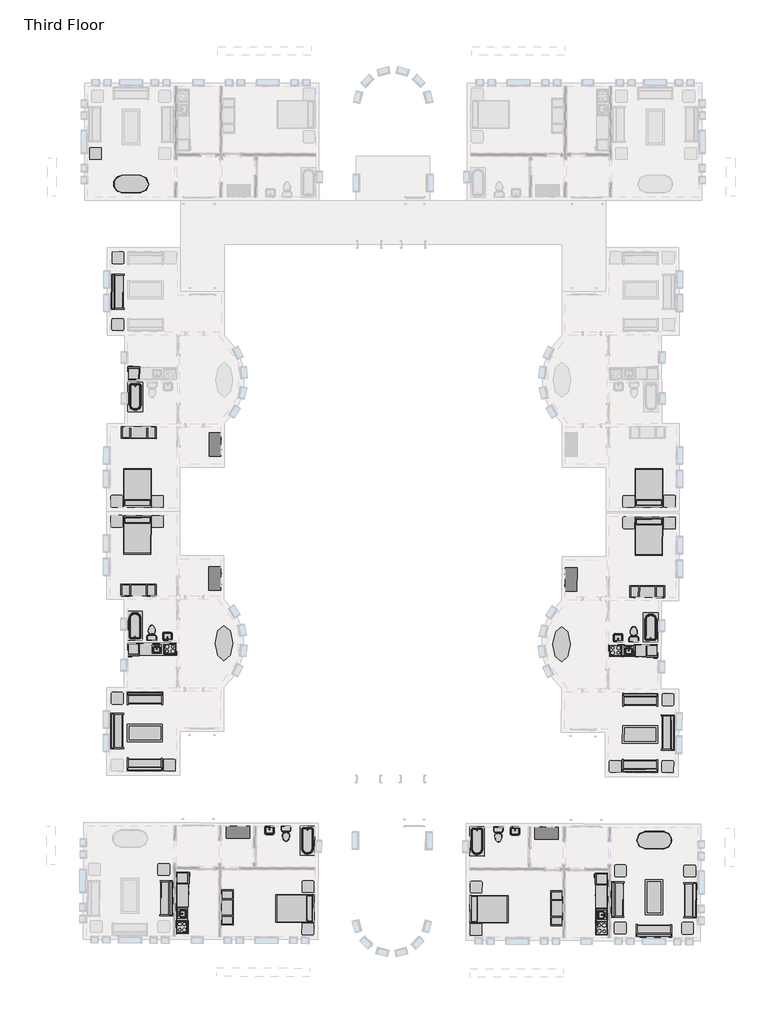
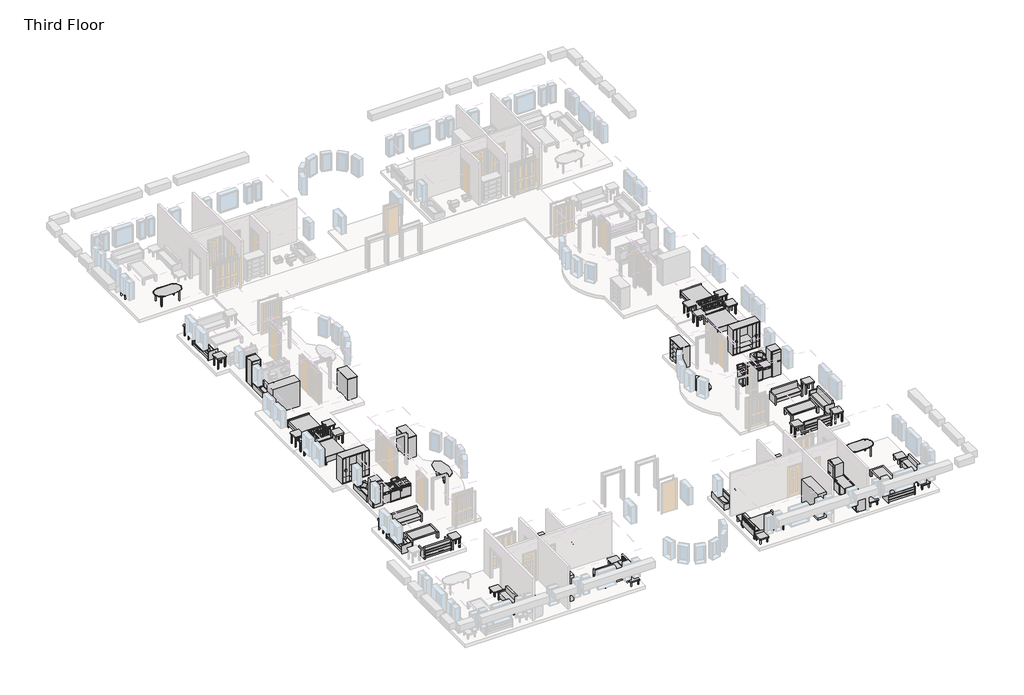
# One storey, part 4 of 5: 63 furniture elements, 17 flow terminals, 16 proxies.
"""IFC4 building model written with IfcOpenShell, lengths in millimetres."""

from ifc_helpers import new_model, si_unit, origin, place, context, project, spatial, transform, mapped, element, save
from components import m_cook_top_4_unit2_0615_x_500mm_249f3515, m_cook_top_4_unit2_0615_x_500mm_c91639ce, m_dishwasher_610_x_610_x_875mm_54ecfc4c, m_dishwasher_610_x_610_x_875mm_75336c20, m_kitchenette_medium_1372mm_39f1532f, m_kitchenette_medium_1372mm_e05c6bec, m_refrigerator_600_x_660mm_a466bf94, m_refrigerator_600_x_660mm_0a899b9c, m_sink_kitchen_island_450_x_450mm_f969cf2d, m_sink_kitchen_island_450_x_450mm_f6c2c534, m_sink_vanity_square_500_x_440mm_1e229b74, m_sink_vanity_square_500_x_440mm_f3cfe680, m_toilet_domestic_3d_m_toilet_domestic_3d_5cb52bd4, m_toilet_domestic_3d_m_toilet_domestic_3d_183bbd19, m_toilet_domestic_3d_m_toilet_domestic_3d_43425dfb, m_toilet_domestic_3d_m_toilet_domestic_3d_5530cc89, m_tub_rectangular_3d_m_tub_rectangular_3d_3a981ad5, m_tub_rectangular_3d_m_tub_rectangular_3d_c2020133, m_bed_shaker_1422_x_1981mm_double_096e7f55, m_bed_shaker_1422_x_1981mm_double_097b173b, m_counter_top_w_sink_hole_600mm_depth_1fb56bb9, m_counter_top_w_sink_hole_600mm_depth_08c4f679, m_counter_top_w_sink_hole_600mm_depth_60928b92, m_counter_top_w_sink_hole_600mm_depth_7e9aa94d, m_dresser_1220_x_1525_x_0610mm_18e1f140, m_dresser_1220_x_1525_x_0610mm_4e5de046, m_entertainment_center_1830_x_1830_x_0610mm_f77a9b93, m_entertainment_center_1830_x_1830_x_0610mm_4f6058a0, m_sofa_1830mm_58d08fc1, m_sofa_1830mm_3da2e71b, m_sofa1_1830mm_f9e8a66b, m_sofa1_1830mm_493d6964, m_table_coffee_0915_x_1830_x_0457mm_134cd960, m_table_coffee_0915_x_1830_x_0457mm_595c1ebd, m_table_dining_oval_0915_x_1830mm_ad8305c5, m_table_ellipse_1800_x_900mm_fd46d5a5, m_table_ellipse_1800_x_900mm_f7269293, m_table_end_cb6ea12e, m_table_end_aa2764bc, m_table_end_0610_x_0160mm_e0e5b28f, m_table_end_0610_x_0160mm_ccef8dc9

model = new_model("IFC4")

# Units and contexts
model_context = context("Model", 3, world=origin())
ifc_project = project(units=[si_unit("LENGTHUNIT", "METRE", prefix="MILLI")], contexts=[model_context])

# Site, building, storey
site = spatial("IfcSite", under=ifc_project)
building = spatial("IfcBuilding", under=site)
storey = spatial("IfcBuildingStorey", under=building, Name="Third Floor", Elevation=6096.0)

# Proxies
placement = place(None, origin())
m_cook_top_4_unit2_0615_x_500mm_shape = m_cook_top_4_unit2_0615_x_500mm_249f3515(model_context)
element("IfcBuildingElementProxy", 1, Name="M_Cook Top-4 Unit2 : 0615 x 500mm", ObjectType="M_Cook Top-4 Unit2 : 0615 x 500mm", at=placement, inside=storey, context=model_context, shape_type="MappedRepresentation", body=[
    mapped(m_cook_top_4_unit2_0615_x_500mm_shape, transform((-7404.4223325, -26881.3653639, 6096.0), x_axis=(0.9999905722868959, -0.004342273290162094, 0.0), y_axis=(0.004342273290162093, 0.9999905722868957, 0.0), z_axis=(0.0, 0.0, 0.9999999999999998))),
])
element("IfcBuildingElementProxy", 2, Name="M_Cook Top-4 Unit2 : 0615 x 500mm", ObjectType="M_Cook Top-4 Unit2 : 0615 x 500mm", at=placement, inside=storey, context=model_context, shape_type="MappedRepresentation", body=[
    mapped(m_cook_top_4_unit2_0615_x_500mm_shape, transform((-29921.672142, -41252.4695151, 6096.0), x_axis=(0.0028948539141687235, 0.9999958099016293, 0.0), y_axis=(-0.9999958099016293, 0.0028948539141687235, 0.0), z_axis=(0.0, 0.0, 1.0))),
])
m_cook_top_4_unit2_0615_x_500mm_2_shape = m_cook_top_4_unit2_0615_x_500mm_c91639ce(model_context)
element("IfcBuildingElementProxy", 3, Name="M_Cook Top-4 Unit2 : 0615 x 500mm", ObjectType="M_Cook Top-4 Unit2 : 0615 x 500mm", at=placement, inside=storey, context=model_context, shape_type="MappedRepresentation", body=[
    mapped(m_cook_top_4_unit2_0615_x_500mm_2_shape, transform((-8117.5635037, -41315.5894888, 6096.0), x_axis=(0.0028948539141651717, 0.9999958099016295, 0.0), y_axis=(-0.9999958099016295, 0.0028948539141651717, 0.0), z_axis=(0.0, 0.0, 1.0))),
])
element("IfcBuildingElementProxy", 4, Name="M_Cook Top-4 Unit2 : 0615 x 500mm", ObjectType="M_Cook Top-4 Unit2 : 0615 x 500mm", at=placement, inside=storey, context=model_context, shape_type="MappedRepresentation", body=[
    mapped(m_cook_top_4_unit2_0615_x_500mm_2_shape, transform((-30551.2317704, -26814.3584512, 6096.0), x_axis=(-0.9999989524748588, 0.0014474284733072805, 0.0), y_axis=(-0.0014474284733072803, -0.9999989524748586, 0.0), z_axis=(0.0, 0.0, 0.9999999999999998))),
])
m_dishwasher_610_x_610_x_875mm_shape = m_dishwasher_610_x_610_x_875mm_54ecfc4c(model_context)
element("IfcBuildingElementProxy", 5, Name="M_Dishwasher : 610 x 610 x 875mm", ObjectType="M_Dishwasher : 610 x 610 x 875mm", at=placement, inside=storey, context=model_context, shape_type="MappedRepresentation", body=[
    mapped(m_dishwasher_610_x_610_x_875mm_shape, transform((-6490.1062972, -27151.9876901, 6096.0), x_axis=(0.9999905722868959, -0.004342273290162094, 0.0), y_axis=(0.004342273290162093, 0.9999905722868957, 0.0), z_axis=(0.0, 0.0, 0.9999999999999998))),
])
element("IfcBuildingElementProxy", 6, Name="M_Dishwasher : 610 x 610 x 875mm", ObjectType="M_Dishwasher : 610 x 610 x 875mm", at=placement, inside=storey, context=model_context, shape_type="MappedRepresentation", body=[
    mapped(m_dishwasher_610_x_610_x_875mm_shape, transform((-29650.5063255, -39692.7654337, 6096.0), x_axis=(0.0028948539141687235, 0.9999958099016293, 0.0), y_axis=(-0.9999958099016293, 0.0028948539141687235, 0.0), z_axis=(0.0, 0.0, 1.0))),
])
m_dishwasher_610_x_610_x_875mm_2_shape = m_dishwasher_610_x_610_x_875mm_75336c20(model_context)
element("IfcBuildingElementProxy", 7, Name="M_Dishwasher : 610 x 610 x 875mm", ObjectType="M_Dishwasher : 610 x 610 x 875mm", at=placement, inside=storey, context=model_context, shape_type="MappedRepresentation", body=[
    mapped(m_dishwasher_610_x_610_x_875mm_2_shape, transform((-8379.6945822, -39754.3415843, 6096.0), x_axis=(0.0028948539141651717, 0.9999958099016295, 0.0), y_axis=(-0.9999958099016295, 0.0028948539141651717, 0.0), z_axis=(0.0, 0.0, 1.0))),
])
element("IfcBuildingElementProxy", 8, Name="M_Dishwasher : 610 x 610 x 875mm", ObjectType="M_Dishwasher : 610 x 610 x 875mm", at=placement, inside=storey, context=model_context, shape_type="MappedRepresentation", body=[
    mapped(m_dishwasher_610_x_610_x_875mm_2_shape, transform((-31467.0992991, -27079.6826412, 6096.0), x_axis=(-0.9999989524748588, 0.0014474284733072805, 0.0), y_axis=(-0.0014474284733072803, -0.9999989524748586, 0.0), z_axis=(0.0, 0.0, 0.9999999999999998))),
])
m_kitchenette_medium_1372mm_shape = m_kitchenette_medium_1372mm_39f1532f(model_context)
element("IfcBuildingElementProxy", 9, Name="M_Kitchenette - Medium : 1372mm", ObjectType="M_Kitchenette - Medium : 1372mm", at=placement, inside=storey, context=model_context, shape_type="MappedRepresentation", body=[
    mapped(m_kitchenette_medium_1372mm_shape, transform((-7811.6260897, -40992.2114828, 6096.0), x_axis=(0.0028948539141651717, 0.9999958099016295, 0.0), y_axis=(-0.9999958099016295, 0.0028948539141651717, 0.0), z_axis=(0.0, 0.0, 1.0))),
])
m_kitchenette_medium_1372mm_2_shape = m_kitchenette_medium_1372mm_e05c6bec(model_context)
element("IfcBuildingElementProxy", 10, Name="M_Kitchenette - Medium1 : 1372mm 2", ObjectType="M_Kitchenette - Medium1 : 1372mm 2", at=placement, inside=storey, context=model_context, shape_type="MappedRepresentation", body=[
    mapped(m_kitchenette_medium_1372mm_2_shape, transform((-7078.8387011, -26577.7762748, 6096.0), x_axis=(0.9999905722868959, -0.004342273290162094, 0.0), y_axis=(0.004342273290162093, 0.9999905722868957, 0.0), z_axis=(0.0, 0.0, 0.9999999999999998))),
])
element("IfcBuildingElementProxy", 11, Name="M_Kitchenette - Medium1 : 1372mm 2", ObjectType="M_Kitchenette - Medium1 : 1372mm 2", at=placement, inside=storey, context=model_context, shape_type="MappedRepresentation", body=[
    mapped(m_kitchenette_medium_1372mm_shape, transform((-30875.0522602, -26508.8894242, 6096.0), x_axis=(-0.9999989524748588, 0.0014474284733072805, 0.0), y_axis=(-0.0014474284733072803, -0.9999989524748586, 0.0), z_axis=(0.0, 0.0, 0.9999999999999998))),
])
m_refrigerator_600_x_660mm_shape = m_refrigerator_600_x_660mm_a466bf94(model_context)
element("IfcBuildingElementProxy", 12, Name="M_Refrigerator : 600 x 660mm", ObjectType="M_Refrigerator : 600 x 660mm", at=placement, inside=storey, context=model_context, shape_type="MappedRepresentation", body=[
    mapped(m_refrigerator_600_x_660mm_shape, transform((-32487.3566416, -12528.1259936, 6096.0), x_axis=(-0.9999989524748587, 0.0014474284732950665, 0.0), y_axis=(-0.0014474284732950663, -0.9999989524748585, 0.0), z_axis=(0.0, 0.0, 0.9999999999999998))),
])
element("IfcBuildingElementProxy", 13, Name="M_Refrigerator : 600 x 660mm", ObjectType="M_Refrigerator : 600 x 660mm", at=placement, inside=storey, context=model_context, shape_type="MappedRepresentation", body=[
    mapped(m_refrigerator_600_x_660mm_shape, transform((-5447.6014915, -26881.0775022, 6096.0), x_axis=(0.9999905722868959, -0.004342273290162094, 0.0), y_axis=(0.004342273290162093, 0.9999905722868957, 0.0), z_axis=(0.0, 0.0, 0.9999999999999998))),
])
element("IfcBuildingElementProxy", 14, Name="M_Refrigerator : 600 x 660mm", ObjectType="M_Refrigerator : 600 x 660mm", at=placement, inside=storey, context=model_context, shape_type="MappedRepresentation", body=[
    mapped(m_refrigerator_600_x_660mm_shape, transform((-29922.9251807, -38650.6538432, 6096.0), x_axis=(0.0028948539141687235, 0.9999958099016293, 0.0), y_axis=(-0.9999958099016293, 0.0028948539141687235, 0.0), z_axis=(0.0, 0.0, 1.0))),
])
m_refrigerator_600_x_660mm_2_shape = m_refrigerator_600_x_660mm_0a899b9c(model_context)
element("IfcBuildingElementProxy", 15, Name="M_Refrigerator : 600 x 660mm", ObjectType="M_Refrigerator : 600 x 660mm", at=placement, inside=storey, context=model_context, shape_type="MappedRepresentation", body=[
    mapped(m_refrigerator_600_x_660mm_2_shape, transform((-8101.2467965, -38713.824679, 6096.0), x_axis=(0.0028948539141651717, 0.9999958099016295, 0.0), y_axis=(-0.9999958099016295, 0.0028948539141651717, 0.0), z_axis=(0.0, 0.0, 1.0))),
])
element("IfcBuildingElementProxy", 16, Name="M_Refrigerator : 600 x 660mm", ObjectType="M_Refrigerator : 600 x 660mm", at=placement, inside=storey, context=model_context, shape_type="MappedRepresentation", body=[
    mapped(m_refrigerator_600_x_660mm_2_shape, transform((-32508.0181478, -26802.7412209, 6096.0), x_axis=(-0.9999989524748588, 0.0014474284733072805, 0.0), y_axis=(-0.0014474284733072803, -0.9999989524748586, 0.0), z_axis=(0.0, 0.0, 0.9999999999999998))),
])

# Flow terminals
m_sink_kitchen_island_450_x_450mm_shape = m_sink_kitchen_island_450_x_450mm_f969cf2d(model_context)
element("IfcFlowTerminal", 17, ObjectType="M_Sink Kitchen-Island : 450 x 450mm", at=placement, inside=storey, context=model_context, shape_type="MappedRepresentation", body=[
    mapped(m_sink_kitchen_island_450_x_450mm_shape, transform((-6734.1280769, -26886.6214154, 6096.0), x_axis=(0.9999905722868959, -0.004342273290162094, 0.0), y_axis=(0.004342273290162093, 0.9999905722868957, 0.0), z_axis=(0.0, 0.0, 0.9999999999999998))),
])
element("IfcFlowTerminal", 18, ObjectType="M_Sink Kitchen-Island : 450 x 450mm", at=placement, inside=storey, context=model_context, shape_type="MappedRepresentation", body=[
    mapped(m_sink_kitchen_island_450_x_450mm_shape, transform((-29917.3862989, -40582.1683539, 6096.0), x_axis=(0.0028948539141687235, 0.9999958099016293, 0.0), y_axis=(-0.9999958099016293, 0.0028948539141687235, 0.0), z_axis=(0.0, 0.0, 1.0))),
])
m_sink_kitchen_island_450_x_450mm_2_shape = m_sink_kitchen_island_450_x_450mm_f6c2c534(model_context)
element("IfcFlowTerminal", 19, ObjectType="M_Sink Kitchen-Island : 450 x 450mm", at=placement, inside=storey, context=model_context, shape_type="MappedRepresentation", body=[
    mapped(m_sink_kitchen_island_450_x_450mm_2_shape, transform((-8117.9684433, -40645.2747484, 6096.0), x_axis=(0.0028948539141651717, 0.9999958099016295, 0.0), y_axis=(-0.9999958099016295, 0.0028948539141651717, 0.0), z_axis=(0.0, 0.0, 1.0))),
])
element("IfcFlowTerminal", 20, ObjectType="M_Sink Kitchen-Island : 450 x 450mm", at=placement, inside=storey, context=model_context, shape_type="MappedRepresentation", body=[
    mapped(m_sink_kitchen_island_450_x_450mm_2_shape, transform((-31221.5452225, -26815.733623, 6096.0), x_axis=(-0.9999989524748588, 0.0014474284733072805, 0.0), y_axis=(-0.0014474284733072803, -0.9999989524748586, 0.0), z_axis=(0.0, 0.0, 0.9999999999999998))),
])
m_sink_vanity_square_500_x_440mm_shape = m_sink_vanity_square_500_x_440mm_1e229b74(model_context)
element("IfcFlowTerminal", 21, ObjectType="M_Sink Vanity-Square : 500 x 440mm", at=placement, inside=storey, context=model_context, shape_type="MappedRepresentation", body=[
    mapped(m_sink_vanity_square_500_x_440mm_shape, transform((-7255.849628, -26269.4593372, 6096.0), x_axis=(-0.9999905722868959, 0.00434227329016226, 0.0), y_axis=(-0.0043422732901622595, -0.9999905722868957, 0.0), z_axis=(0.0, 0.0, 0.9999999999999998))),
])
element("IfcFlowTerminal", 22, ObjectType="M_Sink Vanity-Square : 500 x 440mm", at=placement, inside=storey, context=model_context, shape_type="MappedRepresentation", body=[
    mapped(m_sink_vanity_square_500_x_440mm_shape, transform((-25398.4470959, -36193.3769715, 6096.0), x_axis=(0.9999958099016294, -0.0028948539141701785, 0.0), y_axis=(0.0028948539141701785, 0.9999958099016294, 0.0), z_axis=(0.0, 0.0, 1.0))),
])
m_sink_vanity_square_500_x_440mm_2_shape = m_sink_vanity_square_500_x_440mm_f3cfe680(model_context)
element("IfcFlowTerminal", 23, ObjectType="M_Sink Vanity-Square : 500 x 440mm", at=placement, inside=storey, context=model_context, shape_type="MappedRepresentation", body=[
    mapped(m_sink_vanity_square_500_x_440mm_2_shape, transform((-12611.4221939, -36230.3936957, 6096.0), x_axis=(-0.9999958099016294, 0.002894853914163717, 0.0), y_axis=(-0.002894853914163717, -0.9999958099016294, 0.0), z_axis=(0.0, 0.0, 1.0))),
])
element("IfcFlowTerminal", 24, ObjectType="M_Sink Vanity-Square : 500 x 440mm", at=placement, inside=storey, context=model_context, shape_type="MappedRepresentation", body=[
    mapped(m_sink_vanity_square_500_x_440mm_2_shape, transform((-30696.2592425, -26201.6024913, 6096.0), x_axis=(0.9999989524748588, -0.001447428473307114, 0.0), y_axis=(0.0014474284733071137, 0.9999989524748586, 0.0), z_axis=(0.0, 0.0, 0.9999999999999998))),
])
m_toilet_domestic_3d_m_toilet_domestic_3d_shape = m_toilet_domestic_3d_m_toilet_domestic_3d_5cb52bd4(model_context)
m_toilet_domestic_3d_m_toilet_domestic_3d_2_shape = m_toilet_domestic_3d_m_toilet_domestic_3d_183bbd19(model_context)
element("IfcFlowTerminal", 25, ObjectType="M_Toilet-Domestic-3D : M_Toilet-Domestic-3D", at=placement, inside=storey, context=model_context, shape_type="MappedRepresentation", body=[
    mapped(m_toilet_domestic_3d_m_toilet_domestic_3d_shape, transform((-24522.1713775, -36508.8406097, 6096.0), x_axis=(0.9999958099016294, -0.00289485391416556, 0.0), y_axis=(0.00289485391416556, 0.9999958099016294, 0.0), z_axis=(0.0, 0.0, 1.0))),
    mapped(m_toilet_domestic_3d_m_toilet_domestic_3d_2_shape, transform((-24522.1713775, -36508.8406097, 6096.0), x_axis=(0.9999958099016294, -0.00289485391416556, 0.0), y_axis=(0.00289485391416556, 0.9999958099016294, 0.0), z_axis=(0.0, 0.0, 1.0))),
])
m_toilet_domestic_3d_m_toilet_domestic_3d_3_shape = m_toilet_domestic_3d_m_toilet_domestic_3d_43425dfb(model_context)
m_toilet_domestic_3d_m_toilet_domestic_3d_4_shape = m_toilet_domestic_3d_m_toilet_domestic_3d_5530cc89(model_context)
element("IfcFlowTerminal", 26, ObjectType="M_Toilet-Domestic-3D : M_Toilet-Domestic-3D", at=placement, inside=storey, context=model_context, shape_type="MappedRepresentation", body=[
    mapped(m_toilet_domestic_3d_m_toilet_domestic_3d_3_shape, transform((-13489.5096603, -36540.7786875, 6096.0), x_axis=(-0.9999958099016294, 0.002894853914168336, 0.0), y_axis=(-0.002894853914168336, -0.9999958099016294, 0.0), z_axis=(0.0, 0.0, 1.0))),
    mapped(m_toilet_domestic_3d_m_toilet_domestic_3d_4_shape, transform((-13489.5096603, -36540.7786875, 6096.0), x_axis=(-0.9999958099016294, 0.002894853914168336, 0.0), y_axis=(-0.002894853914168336, -0.9999958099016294, 0.0), z_axis=(0.0, 0.0, 1.0))),
])
element("IfcFlowTerminal", 27, ObjectType="M_Toilet-Domestic-3D1 : M_Toilet-Domestic-3D", at=placement, inside=storey, context=model_context, shape_type="MappedRepresentation", body=[
    mapped(m_toilet_domestic_3d_m_toilet_domestic_3d_shape, transform((-6457.2243201, -25950.2735511, 6096.0), x_axis=(-0.9999905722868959, 0.00434227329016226, 0.0), y_axis=(-0.0043422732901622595, -0.9999905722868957, 0.0), z_axis=(0.0, 0.0, 0.9999999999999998))),
    mapped(m_toilet_domestic_3d_m_toilet_domestic_3d_2_shape, transform((-6457.2243201, -25950.2735511, 6096.0), x_axis=(-0.9999905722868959, 0.00434227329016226, 0.0), y_axis=(-0.0043422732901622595, -0.9999905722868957, 0.0), z_axis=(0.0, 0.0, 0.9999999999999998))),
])
element("IfcFlowTerminal", 28, ObjectType="M_Toilet-Domestic-3D1 : M_Toilet-Domestic-3D", at=placement, inside=storey, context=model_context, shape_type="MappedRepresentation", body=[
    mapped(m_toilet_domestic_3d_m_toilet_domestic_3d_3_shape, transform((-31493.0231805, -25877.7982671, 6096.0), x_axis=(0.9999989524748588, -0.001447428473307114, 0.0), y_axis=(0.0014474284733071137, 0.9999989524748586, 0.0), z_axis=(0.0, 0.0, 0.9999999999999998))),
    mapped(m_toilet_domestic_3d_m_toilet_domestic_3d_4_shape, transform((-31493.0231805, -25877.7982671, 6096.0), x_axis=(0.9999989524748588, -0.001447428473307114, 0.0), y_axis=(0.0014474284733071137, 0.9999989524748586, 0.0), z_axis=(0.0, 0.0, 0.9999999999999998))),
])
m_tub_rectangular_3d_m_tub_rectangular_3d_shape = m_tub_rectangular_3d_m_tub_rectangular_3d_3a981ad5(model_context)
element("IfcFlowTerminal", 29, ObjectType="M_Tub-Rectangular-3D : M_Tub-Rectangular-3D", at=placement, inside=storey, context=model_context, shape_type="MappedRepresentation", body=[
    mapped(m_tub_rectangular_3d_m_tub_rectangular_3d_shape, transform((-22854.3573612, -37129.57823, 6096.0), x_axis=(-0.0028948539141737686, -0.9999958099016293, 0.0), y_axis=(0.9999958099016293, -0.0028948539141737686, 0.0), z_axis=(0.0, 0.0, 1.0))),
])
element("IfcFlowTerminal", 30, ObjectType="M_Tub-Rectangular-3D : M_Tub-Rectangular-3D", at=placement, inside=storey, context=model_context, shape_type="MappedRepresentation", body=[
    mapped(m_tub_rectangular_3d_m_tub_rectangular_3d_shape, transform((-32926.5841692, -25259.8157014, 6096.0), x_axis=(0.0014474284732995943, 0.9999989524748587, 0.0), y_axis=(-0.9999989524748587, 0.0014474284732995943, 0.0), z_axis=(0.0, 0.0, 1.0))),
])
m_tub_rectangular_3d_m_tub_rectangular_3d_2_shape = m_tub_rectangular_3d_m_tub_rectangular_3d_c2020133(model_context)
element("IfcFlowTerminal", 31, ObjectType="M_Tub-Rectangular-3D : M_Tub-Rectangular-3D", at=placement, inside=storey, context=model_context, shape_type="MappedRepresentation", body=[
    mapped(m_tub_rectangular_3d_m_tub_rectangular_3d_2_shape, transform((-32910.3874532, -14069.8333606, 6096.0), x_axis=(-0.0014474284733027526, -0.9999989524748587, 0.0), y_axis=(0.9999989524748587, -0.0014474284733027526, 0.0), z_axis=(0.0, 0.0, 1.0))),
])
element("IfcFlowTerminal", 32, ObjectType="M_Tub-Rectangular-3D : M_Tub-Rectangular-3D", at=placement, inside=storey, context=model_context, shape_type="MappedRepresentation", body=[
    mapped(m_tub_rectangular_3d_m_tub_rectangular_3d_2_shape, transform((-15160.8895978, -37151.8497886, 6096.0), x_axis=(-0.0028948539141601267, -0.9999958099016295, 0.0), y_axis=(0.9999958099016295, -0.0028948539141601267, 0.0), z_axis=(0.0, 0.0, 1.0))),
])
element("IfcFlowTerminal", 33, ObjectType="M_Tub-Rectangular-3D : M_Tub-Rectangular-3D", at=placement, inside=storey, context=model_context, shape_type="MappedRepresentation", body=[
    mapped(m_tub_rectangular_3d_m_tub_rectangular_3d_2_shape, transform((-5020.1094348, -25340.6012075, 6096.0), x_axis=(0.004342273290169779, 0.9999905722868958, 0.0), y_axis=(-0.9999905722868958, 0.004342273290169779, 0.0), z_axis=(0.0, 0.0, 1.0))),
])

# Furniture
m_bed_shaker_1422_x_1981mm_double_shape = m_bed_shaker_1422_x_1981mm_double_096e7f55(model_context)
element("IfcFurniture", 34, ObjectType="M_Bed-Shaker : 1422 x 1981mm - Double", at=placement, inside=storey, context=model_context, shape_type="MappedRepresentation", body=[
    mapped(m_bed_shaker_1422_x_1981mm_double_shape, transform((-32265.3963493, -19430.7695861, 6096.0), x_axis=(-0.9999989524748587, 0.0014474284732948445, 0.0), y_axis=(-0.0014474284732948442, -0.9999989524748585, 0.0), z_axis=(0.0, 0.0, 0.9999999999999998))),
])
element("IfcFurniture", 35, ObjectType="M_Bed-Shaker : 1422 x 1981mm - Double", at=placement, inside=storey, context=model_context, shape_type="MappedRepresentation", body=[
    mapped(m_bed_shaker_1422_x_1981mm_double_shape, transform((-5649.5787089, -19977.8202898, 6096.0), x_axis=(0.9999905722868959, -0.004342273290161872, 0.0), y_axis=(0.004342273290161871, 0.9999905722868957, 0.0), z_axis=(0.0, 0.0, 0.9999999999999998))),
])
element("IfcFurniture", 36, ObjectType="M_Bed-Shaker : 1422 x 1981mm - Double", at=placement, inside=storey, context=model_context, shape_type="MappedRepresentation", body=[
    mapped(m_bed_shaker_1422_x_1981mm_double_shape, transform((-23068.6004859, -40322.2184362, 6096.0), x_axis=(-0.002894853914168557, -0.9999958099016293, 0.0), y_axis=(0.9999958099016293, -0.002894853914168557, 0.0), z_axis=(0.0, 0.0, 1.0))),
])
m_bed_shaker_1422_x_1981mm_double_2_shape = m_bed_shaker_1422_x_1981mm_double_097b173b(model_context)
element("IfcFurniture", 37, ObjectType="M_Bed-Shaker : 1422 x 1981mm - Double", at=placement, inside=storey, context=model_context, shape_type="MappedRepresentation", body=[
    mapped(m_bed_shaker_1422_x_1981mm_double_2_shape, transform((-5648.7868913, -19430.7695861, 6096.0), x_axis=(0.9999989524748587, 0.0014474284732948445, 0.0), y_axis=(-0.0014474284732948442, 0.9999989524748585, 0.0), z_axis=(0.0, 0.0, 0.9999999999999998))),
])
element("IfcFurniture", 38, ObjectType="M_Bed-Shaker : 1422 x 1981mm - Double", at=placement, inside=storey, context=model_context, shape_type="MappedRepresentation", body=[
    mapped(m_bed_shaker_1422_x_1981mm_double_2_shape, transform((-14965.1344404, -40345.6768849, 6096.0), x_axis=(-0.0028948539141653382, -0.9999958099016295, 0.0), y_axis=(0.9999958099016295, -0.0028948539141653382, 0.0), z_axis=(0.0, 0.0, 1.0))),
])
element("IfcFurniture", 39, ObjectType="M_Bed-Shaker : 1422 x 1981mm - Double", at=placement, inside=storey, context=model_context, shape_type="MappedRepresentation", body=[
    mapped(m_bed_shaker_1422_x_1981mm_double_2_shape, transform((-32266.0766407, -19900.7690938, 6096.0), x_axis=(-0.9999989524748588, 0.0014474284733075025, 0.0), y_axis=(-0.0014474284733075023, -0.9999989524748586, 0.0), z_axis=(0.0, 0.0, 0.9999999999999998))),
])
m_counter_top_w_sink_hole_600mm_depth_shape = m_counter_top_w_sink_hole_600mm_depth_1fb56bb9(model_context)
element("IfcFurniture", 40, ObjectType="M_Counter Top w Sink Hole : 600mm Depth", at=placement, inside=storey, context=model_context, shape_type="MappedRepresentation", body=[
    mapped(m_counter_top_w_sink_hole_600mm_depth_shape, transform((-30224.1886359, -40394.1278824, 6096.0), x_axis=(0.0028948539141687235, 0.9999958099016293, 0.0), y_axis=(-0.9999958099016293, 0.0028948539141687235, 0.0), z_axis=(0.0, 0.0, 1.0))),
])
m_counter_top_w_sink_hole_600mm_depth_2_shape = m_counter_top_w_sink_hole_600mm_depth_08c4f679(model_context)
element("IfcFurniture", 41, ObjectType="M_Counter Top w Sink Hole : 600mm Depth", at=placement, inside=storey, context=model_context, shape_type="MappedRepresentation", body=[
    mapped(m_counter_top_w_sink_hole_600mm_depth_2_shape, transform((-6545.643728, -26580.0915749, 6096.0), x_axis=(0.9999905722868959, -0.004342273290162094, 0.0), y_axis=(0.004342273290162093, 0.9999905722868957, 0.0), z_axis=(0.0, 0.0, 0.9999999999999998))),
])
m_counter_top_w_sink_hole_600mm_depth_3_shape = m_counter_top_w_sink_hole_600mm_depth_60928b92(model_context)
element("IfcFurniture", 42, ObjectType="M_Counter Top w Sink Hole : 600mm Depth", at=placement, inside=storey, context=model_context, shape_type="MappedRepresentation", body=[
    mapped(m_counter_top_w_sink_hole_600mm_depth_3_shape, transform((-31408.2517016, -26508.1176554, 6096.0), x_axis=(-0.9999989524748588, 0.0014474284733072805, 0.0), y_axis=(-0.0014474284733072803, -0.9999989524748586, 0.0), z_axis=(0.0, 0.0, 0.9999999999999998))),
])
m_counter_top_w_sink_hole_600mm_depth_4_shape = m_counter_top_w_sink_hole_600mm_depth_7e9aa94d(model_context)
element("IfcFurniture", 43, ObjectType="M_Counter Top w Sink Hole : 600mm Depth", at=placement, inside=storey, context=model_context, shape_type="MappedRepresentation", body=[
    mapped(m_counter_top_w_sink_hole_600mm_depth_4_shape, transform((-7810.0825536, -40459.013717, 6096.0), x_axis=(0.0028948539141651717, 0.9999958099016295, 0.0), y_axis=(-0.9999958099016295, 0.0028948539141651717, 0.0), z_axis=(0.0, 0.0, 1.0))),
])
m_dresser_1220_x_1525_x_0610mm_shape = m_dresser_1220_x_1525_x_0610mm_18e1f140(model_context)
element("IfcFurniture", 44, ObjectType="M_Dresser : 1220 x 1525 x 0610mm", at=placement, inside=storey, context=model_context, shape_type="MappedRepresentation", body=[
    mapped(m_dresser_1220_x_1525_x_0610mm_shape, transform((-28574.6164889, -15914.9147832, 6096.0), x_axis=(0.0014474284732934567, 0.9999989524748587, 0.0), y_axis=(-0.9999989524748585, 0.0014474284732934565, 0.0), z_axis=(0.0, 0.0, 0.9999999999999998))),
])
element("IfcFurniture", 45, ObjectType="M_Dresser : 1220 x 1525 x 0610mm", at=placement, inside=storey, context=model_context, shape_type="MappedRepresentation", body=[
    mapped(m_dresser_1220_x_1525_x_0610mm_shape, transform((-9350.5209907, -23482.9760924, 6096.0), x_axis=(-0.004342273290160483, -0.9999905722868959, 0.0), y_axis=(0.9999905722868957, -0.004342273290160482, 0.0), z_axis=(0.0, 0.0, 0.9999999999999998))),
])
element("IfcFurniture", 46, ObjectType="M_Dresser : 1220 x 1525 x 0610mm", at=placement, inside=storey, context=model_context, shape_type="MappedRepresentation", body=[
    mapped(m_dresser_1220_x_1525_x_0610mm_shape, transform((-27295.820683, -36698.2790207, 6096.0), x_axis=(-0.9999958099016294, 0.0028948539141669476, 0.0), y_axis=(-0.0028948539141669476, -0.9999958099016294, 0.0), z_axis=(0.0, 0.0, 1.0))),
])
m_dresser_1220_x_1525_x_0610mm_2_shape = m_dresser_1220_x_1525_x_0610mm_4e5de046(model_context)
element("IfcFurniture", 47, ObjectType="M_Dresser : 1220 x 1525 x 0610mm", at=placement, inside=storey, context=model_context, shape_type="MappedRepresentation", body=[
    mapped(m_dresser_1220_x_1525_x_0610mm_2_shape, transform((-10717.0036305, -36746.2724752, 6096.0), x_axis=(0.9999958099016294, -0.002894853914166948, 0.0), y_axis=(0.002894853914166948, 0.9999958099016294, 0.0), z_axis=(0.0, 0.0, 1.0))),
])
element("IfcFurniture", 48, ObjectType="M_Dresser : 1220 x 1525 x 0610mm", at=placement, inside=storey, context=model_context, shape_type="MappedRepresentation", body=[
    mapped(m_dresser_1220_x_1525_x_0610mm_2_shape, transform((-28585.490131, -23427.2934334, 6096.0), x_axis=(-0.0014474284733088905, -0.9999989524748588, 0.0), y_axis=(0.9999989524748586, -0.0014474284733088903, 0.0), z_axis=(0.0, 0.0, 0.9999999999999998))),
])
m_entertainment_center_1830_x_1830_x_0610mm_shape = m_entertainment_center_1830_x_1830_x_0610mm_f77a9b93(model_context)
element("IfcFurniture", 49, ObjectType="M_Entertainment center : 1830 x 1830 x 0610mm", at=placement, inside=storey, context=model_context, shape_type="MappedRepresentation", body=[
    mapped(m_entertainment_center_1830_x_1830_x_0610mm_shape, transform((-32173.151944, -15980.2994888, 6096.0), x_axis=(-0.9999989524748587, 0.0014474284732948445, 0.0), y_axis=(-0.0014474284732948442, -0.9999989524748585, 0.0), z_axis=(0.0, 0.0, 0.9999999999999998))),
])
element("IfcFurniture", 50, ObjectType="M_Entertainment center : 1830 x 1830 x 0610mm", at=placement, inside=storey, context=model_context, shape_type="MappedRepresentation", body=[
    mapped(m_entertainment_center_1830_x_1830_x_0610mm_shape, transform((-5751.8113346, -23428.0088952, 6096.0), x_axis=(0.9999905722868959, -0.004342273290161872, 0.0), y_axis=(0.004342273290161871, 0.9999905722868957, 0.0), z_axis=(0.0, 0.0, 0.9999999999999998))),
])
element("IfcFurniture", 51, ObjectType="M_Entertainment center : 1830 x 1830 x 0610mm", at=placement, inside=storey, context=model_context, shape_type="MappedRepresentation", body=[
    mapped(m_entertainment_center_1830_x_1830_x_0610mm_shape, transform((-27155.4724705, -40237.537184, 6096.0), x_axis=(-0.0028948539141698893, -0.9999958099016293, 0.0), y_axis=(0.9999958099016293, -0.0028948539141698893, 0.0), z_axis=(0.0, 0.0, 1.0))),
])
m_entertainment_center_1830_x_1830_x_0610mm_2_shape = m_entertainment_center_1830_x_1830_x_0610mm_4f6058a0(model_context)
element("IfcFurniture", 52, ObjectType="M_Entertainment center : 1830 x 1830 x 0610mm", at=placement, inside=storey, context=model_context, shape_type="MappedRepresentation", body=[
    mapped(m_entertainment_center_1830_x_1830_x_0610mm_2_shape, transform((-10877.8406756, -40284.6587476, 6096.0), x_axis=(-0.002894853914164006, -0.9999958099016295, 0.0), y_axis=(0.9999958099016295, -0.002894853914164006, 0.0), z_axis=(0.0, 0.0, 1.0))),
])
element("IfcFurniture", 53, ObjectType="M_Entertainment center : 1830 x 1830 x 0610mm", at=placement, inside=storey, context=model_context, shape_type="MappedRepresentation", body=[
    mapped(m_entertainment_center_1830_x_1830_x_0610mm_2_shape, transform((-32183.8212288, -23351.4917673, 6096.0), x_axis=(-0.9999989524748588, 0.0014474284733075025, 0.0), y_axis=(-0.0014474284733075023, -0.9999989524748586, 0.0), z_axis=(0.0, 0.0, 0.9999999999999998))),
])
m_sofa_1830mm_shape = m_sofa_1830mm_58d08fc1(model_context)
element("IfcFurniture", 54, ObjectType="M_Sofa : 1830mm", at=placement, inside=storey, context=model_context, shape_type="MappedRepresentation", body=[
    mapped(m_sofa_1830mm_shape, transform((-30883.7111212, -39691.3716975, 6096.0), x_axis=(-0.002894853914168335, -0.9999958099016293, 0.0), y_axis=(0.9999958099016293, -0.002894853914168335, 0.0), z_axis=(0.0, 0.0, 1.0))),
])
m_sofa_1830mm_2_shape = m_sofa_1830mm_3da2e71b(model_context)
element("IfcFurniture", 55, ObjectType="M_Sofa : 1830mm", at=placement, inside=storey, context=model_context, shape_type="MappedRepresentation", body=[
    mapped(m_sofa_1830mm_2_shape, transform((-5476.2542745, -41309.1457454, 6096.0), x_axis=(0.9999958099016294, -0.002894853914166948, 0.0), y_axis=(0.002894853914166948, 0.9999958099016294, 0.0), z_axis=(0.0, 0.0, 1.0))),
])
element("IfcFurniture", 56, ObjectType="M_Sofa : 1830mm", at=placement, inside=storey, context=model_context, shape_type="MappedRepresentation", body=[
    mapped(m_sofa_1830mm_2_shape, transform((-3675.7206344, -39931.6563496, 6096.0), x_axis=(0.002894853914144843, 0.9999958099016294, 0.0), y_axis=(-0.9999958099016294, 0.002894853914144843, 0.0), z_axis=(0.0, 0.0, 1.0))),
])
element("IfcFurniture", 57, ObjectType="M_Sofa : 1830mm", at=placement, inside=storey, context=model_context, shape_type="MappedRepresentation", body=[
    mapped(m_sofa_1830mm_2_shape, transform((-7146.5023862, -39760.087737, 6096.0), x_axis=(-0.0028948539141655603, -0.9999958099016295, 0.0), y_axis=(0.9999958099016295, -0.0028948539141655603, 0.0), z_axis=(0.0, 0.0, 1.0))),
])
m_sofa1_1830mm_shape = m_sofa1_1830mm_f9e8a66b(model_context)
element("IfcFurniture", 58, ObjectType="M_Sofa1 : 1830mm", at=placement, inside=storey, context=model_context, shape_type="MappedRepresentation", body=[
    mapped(m_sofa1_1830mm_shape, transform((-33110.3167447, -8323.9054813, 6096.0), x_axis=(0.0014474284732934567, 0.9999989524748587, 0.0), y_axis=(-0.9999989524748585, 0.0014474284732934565, 0.0), z_axis=(0.0, 0.0, 0.9999999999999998))),
])
element("IfcFurniture", 59, ObjectType="M_Sofa1 : 1830mm", at=placement, inside=storey, context=model_context, shape_type="MappedRepresentation", body=[
    mapped(m_sofa1_1830mm_shape, transform((-4836.8146029, -31087.0837768, 6096.0), x_axis=(-0.004342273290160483, -0.9999905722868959, 0.0), y_axis=(0.9999905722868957, -0.004342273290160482, 0.0), z_axis=(0.0, 0.0, 0.9999999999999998))),
])
element("IfcFurniture", 60, ObjectType="M_Sofa1 : 1830mm", at=placement, inside=storey, context=model_context, shape_type="MappedRepresentation", body=[
    mapped(m_sofa1_1830mm_shape, transform((-6189.5797831, -29598.4702567, 6096.0), x_axis=(0.9999905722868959, -0.004342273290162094, 0.0), y_axis=(0.004342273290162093, 0.9999905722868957, 0.0), z_axis=(0.0, 0.0, 0.9999999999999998))),
])
element("IfcFurniture", 61, ObjectType="M_Sofa1 : 1830mm", at=placement, inside=storey, context=model_context, shape_type="MappedRepresentation", body=[
    mapped(m_sofa1_1830mm_shape, transform((-6062.461585, -32735.9936216, 6096.0), x_axis=(-0.9999905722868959, 0.00434227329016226, 0.0), y_axis=(-0.0043422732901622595, -0.9999905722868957, 0.0), z_axis=(0.0, 0.0, 0.9999999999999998))),
])
m_sofa1_1830mm_2_shape = m_sofa1_1830mm_493d6964(model_context)
element("IfcFurniture", 62, ObjectType="M_Sofa1 : 1830mm", at=placement, inside=storey, context=model_context, shape_type="MappedRepresentation", body=[
    mapped(m_sofa1_1830mm_2_shape, transform((-33143.1462448, -31005.1407385, 6096.0), x_axis=(-0.0014474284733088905, -0.9999989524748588, 0.0), y_axis=(0.9999989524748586, -0.0014474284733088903, 0.0), z_axis=(0.0, 0.0, 0.9999999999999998))),
])
element("IfcFurniture", 63, ObjectType="M_Sofa1 : 1830mm", at=placement, inside=storey, context=model_context, shape_type="MappedRepresentation", body=[
    mapped(m_sofa1_1830mm_2_shape, transform((-31781.7851362, -29524.3842504, 6096.0), x_axis=(-0.9999989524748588, 0.0014474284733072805, 0.0), y_axis=(-0.0014474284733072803, -0.9999989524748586, 0.0), z_axis=(0.0, 0.0, 0.9999999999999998))),
])
element("IfcFurniture", 64, ObjectType="M_Sofa1 : 1830mm", at=placement, inside=storey, context=model_context, shape_type="MappedRepresentation", body=[
    mapped(m_sofa1_1830mm_2_shape, transform((-31927.0664712, -32661.1190552, 6096.0), x_axis=(0.9999989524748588, -0.001447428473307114, 0.0), y_axis=(0.0014474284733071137, 0.9999989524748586, 0.0), z_axis=(0.0, 0.0, 0.9999999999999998))),
])
m_table_coffee_0915_x_1830_x_0457mm_shape = m_table_coffee_0915_x_1830_x_0457mm_134cd960(model_context)
element("IfcFurniture", 65, ObjectType="M_Table-Coffee : 0915 x 1830 x 0457mm", at=placement, inside=storey, context=model_context, shape_type="MappedRepresentation", body=[
    mapped(m_table_coffee_0915_x_1830_x_0457mm_shape, transform((-6145.0704326, -31347.7369995, 6096.0), x_axis=(0.9999905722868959, -0.004342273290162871, 0.0), y_axis=(0.00434227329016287, 0.9999905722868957, 0.0), z_axis=(0.0, 0.0, 0.9999999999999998))),
])
m_table_coffee_0915_x_1830_x_0457mm_2_shape = m_table_coffee_0915_x_1830_x_0457mm_595c1ebd(model_context)
element("IfcFurniture", 66, ObjectType="M_Table-Coffee : 0915 x 1830 x 0457mm", at=placement, inside=storey, context=model_context, shape_type="MappedRepresentation", body=[
    mapped(m_table_coffee_0915_x_1830_x_0457mm_2_shape, transform((-5306.0065709, -39697.5201665, 6096.0), x_axis=(-0.002894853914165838, -0.9999958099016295, 0.0), y_axis=(0.9999958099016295, -0.002894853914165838, 0.0), z_axis=(0.0, 0.0, 1.0))),
])
element("IfcFurniture", 67, ObjectType="M_Table-Coffee : 0915 x 1830 x 0457mm", at=placement, inside=storey, context=model_context, shape_type="MappedRepresentation", body=[
    mapped(m_table_coffee_0915_x_1830_x_0457mm_2_shape, transform((-31836.4214416, -31273.3639798, 6096.0), x_axis=(-0.9999989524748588, 0.0014474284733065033, 0.0), y_axis=(-0.001447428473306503, -0.9999989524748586, 0.0), z_axis=(0.0, 0.0, 0.9999999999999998))),
])
m_table_dining_oval_0915_x_1830mm_shape = m_table_dining_oval_0915_x_1830mm_ad8305c5(model_context)
element("IfcFurniture", 68, ObjectType="M_Table-Dining Oval : 0915 x 1830mm", at=placement, inside=storey, context=model_context, shape_type="MappedRepresentation", body=[
    mapped(m_table_dining_oval_0915_x_1830mm_shape, transform((-32972.6612925, -2305.2828007, 6096.0), x_axis=(-1.0, 0.0, 0.0), y_axis=(0.0, -1.0, 0.0), z_axis=(0.0, 0.0, 1.0))),
])
element("IfcFurniture", 69, ObjectType="M_Table-Dining Oval : 0915 x 1830mm", at=placement, inside=storey, context=model_context, shape_type="MappedRepresentation", body=[
    mapped(m_table_dining_oval_0915_x_1830mm_shape, transform((-4991.8925118, -37105.2827464, 6096.0), x_axis=(0.9999958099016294, -0.002894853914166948, 0.0), y_axis=(0.002894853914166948, 0.9999958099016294, 0.0), z_axis=(0.0, 0.0, 1.0))),
])
m_table_ellipse_1800_x_900mm_shape = m_table_ellipse_1800_x_900mm_fd46d5a5(model_context)
element("IfcFurniture", 70, ObjectType="M_Table-Ellipse : 1800 x 900mm", at=placement, inside=storey, context=model_context, shape_type="MappedRepresentation", body=[
    mapped(m_table_ellipse_1800_x_900mm_shape, transform((-10207.0715038, -26564.192505, 6096.0), x_axis=(-0.004342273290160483, -0.9999905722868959, 0.0), y_axis=(0.9999905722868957, -0.004342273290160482, 0.0), z_axis=(0.0, 0.0, 0.9999999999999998))),
])
m_table_ellipse_1800_x_900mm_2_shape = m_table_ellipse_1800_x_900mm_f7269293(model_context)
element("IfcFurniture", 71, ObjectType="M_Table-Ellipse : 1800 x 900mm", at=placement, inside=storey, context=model_context, shape_type="MappedRepresentation", body=[
    mapped(m_table_ellipse_1800_x_900mm_2_shape, transform((-27746.793242, -26513.4173601, 6096.0), x_axis=(-0.0014474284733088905, -0.9999989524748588, 0.0), y_axis=(0.9999989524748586, -0.0014474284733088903, 0.0), z_axis=(0.0, 0.0, 0.9999999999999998))),
])
m_table_end_shape = m_table_end_cb6ea12e(model_context)
element("IfcFurniture", 72, ObjectType="M_Table-End : 0610 x 0160mm altered height", at=placement, inside=storey, context=model_context, shape_type="MappedRepresentation", body=[
    mapped(m_table_end_shape, transform((-30560.5051154, -38113.7712131, 6096.0), x_axis=(-0.9999958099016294, 0.0028948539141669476, 0.0), y_axis=(-0.0028948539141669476, -0.9999958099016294, 0.0), z_axis=(0.0, 0.0, 1.0))),
])
element("IfcFurniture", 73, ObjectType="M_Table-End : 0610 x 0160mm altered height", at=placement, inside=storey, context=model_context, shape_type="MappedRepresentation", body=[
    mapped(m_table_end_shape, transform((-23071.0593728, -39006.955807, 6096.0), x_axis=(-0.9999958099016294, 0.0028948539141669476, 0.0), y_axis=(-0.0028948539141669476, -0.9999958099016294, 0.0), z_axis=(0.0, 0.0, 1.0))),
])
element("IfcFurniture", 74, ObjectType="M_Table-End : 0610 x 0160mm altered height", at=placement, inside=storey, context=model_context, shape_type="MappedRepresentation", body=[
    mapped(m_table_end_shape, transform((-23077.4280514, -41206.9465888, 6096.0), x_axis=(-0.9999958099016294, 0.0028948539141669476, 0.0), y_axis=(-0.0028948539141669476, -0.9999958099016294, 0.0), z_axis=(0.0, 0.0, 1.0))),
])
m_table_end_2_shape = m_table_end_aa2764bc(model_context)
element("IfcFurniture", 75, ObjectType="M_Table-End : 0610 x 0160mm altered height", at=placement, inside=storey, context=model_context, shape_type="MappedRepresentation", body=[
    mapped(m_table_end_2_shape, transform((-34107.10799, -1222.7811614, 6096.0), x_axis=(-1.0, 0.0, 0.0), y_axis=(0.0, -1.0, 0.0), z_axis=(0.0, 0.0, 1.0))),
])
element("IfcFurniture", 76, ObjectType="M_Table-End : 0610 x 0160mm altered height", at=placement, inside=storey, context=model_context, shape_type="MappedRepresentation", body=[
    mapped(m_table_end_2_shape, transform((-7469.1712258, -41152.1299825, 6096.0), x_axis=(0.9999958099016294, -0.002894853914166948, 0.0), y_axis=(0.002894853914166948, 0.9999958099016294, 0.0), z_axis=(0.0, 0.0, 1.0))),
])
element("IfcFurniture", 77, ObjectType="M_Table-End : 0610 x 0160mm altered height", at=placement, inside=storey, context=model_context, shape_type="MappedRepresentation", body=[
    mapped(m_table_end_2_shape, transform((-3969.1858911, -41162.2619711, 6096.0), x_axis=(0.9999958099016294, -0.002894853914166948, 0.0), y_axis=(0.002894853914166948, 0.9999958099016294, 0.0), z_axis=(0.0, 0.0, 1.0))),
])
element("IfcFurniture", 78, ObjectType="M_Table-End : 0610 x 0160mm altered height", at=placement, inside=storey, context=model_context, shape_type="MappedRepresentation", body=[
    mapped(m_table_end_2_shape, transform((-3860.5842517, -38191.0639074, 6096.0), x_axis=(0.9999958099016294, -0.002894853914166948, 0.0), y_axis=(0.002894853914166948, 0.9999958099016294, 0.0), z_axis=(0.0, 0.0, 1.0))),
])
element("IfcFurniture", 79, ObjectType="M_Table-End : 0610 x 0160mm altered height", at=placement, inside=storey, context=model_context, shape_type="MappedRepresentation", body=[
    mapped(m_table_end_2_shape, transform((-7460.5691674, -38180.6424333, 6096.0), x_axis=(0.9999958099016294, -0.002894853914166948, 0.0), y_axis=(0.002894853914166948, 0.9999958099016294, 0.0), z_axis=(0.0, 0.0, 1.0))),
])
element("IfcFurniture", 80, ObjectType="M_Table-End : 0610 x 0160mm altered height", at=placement, inside=storey, context=model_context, shape_type="MappedRepresentation", body=[
    mapped(m_table_end_2_shape, transform((-14955.0606403, -39030.4505361, 6096.0), x_axis=(0.9999958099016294, -0.002894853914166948, 0.0), y_axis=(0.002894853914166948, 0.9999958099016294, 0.0), z_axis=(0.0, 0.0, 1.0))),
])
element("IfcFurniture", 81, ObjectType="M_Table-End : 0610 x 0160mm altered height", at=placement, inside=storey, context=model_context, shape_type="MappedRepresentation", body=[
    mapped(m_table_end_2_shape, transform((-14961.4293189, -41230.4413179, 6096.0), x_axis=(0.9999958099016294, -0.002894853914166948, 0.0), y_axis=(0.002894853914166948, 0.9999958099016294, 0.0), z_axis=(0.0, 0.0, 1.0))),
])
m_table_end_0610_x_0160mm_shape = m_table_end_0610_x_0160mm_e0e5b28f(model_context)
element("IfcFurniture", 82, ObjectType="M_Table-End : 0610 x 0160mm", at=placement, inside=storey, context=model_context, shape_type="MappedRepresentation", body=[
    mapped(m_table_end_0610_x_0160mm_shape, transform((-33160.1808503, -19453.9581041, 6096.0), x_axis=(0.0014474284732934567, 0.9999989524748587, 0.0), y_axis=(-0.9999989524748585, 0.0014474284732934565, 0.0), z_axis=(0.0, 0.0, 0.9999999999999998))),
])
element("IfcFurniture", 83, ObjectType="M_Table-End : 0610 x 0160mm", at=placement, inside=storey, context=model_context, shape_type="MappedRepresentation", body=[
    mapped(m_table_end_0610_x_0160mm_shape, transform((-31040.1830711, -19457.0266525, 6096.0), x_axis=(0.0014474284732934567, 0.9999989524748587, 0.0), y_axis=(-0.9999989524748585, 0.0014474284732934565, 0.0), z_axis=(0.0, 0.0, 0.9999999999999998))),
])
element("IfcFurniture", 84, ObjectType="M_Table-End : 0610 x 0160mm", at=placement, inside=storey, context=model_context, shape_type="MappedRepresentation", body=[
    mapped(m_table_end_0610_x_0160mm_shape, transform((-33106.8837287, -10267.2756246, 6096.0), x_axis=(0.0014474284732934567, 0.9999989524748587, 0.0), y_axis=(-0.9999989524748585, 0.0014474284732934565, 0.0), z_axis=(0.0, 0.0, 0.9999999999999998))),
])
element("IfcFurniture", 85, ObjectType="M_Table-End : 0610 x 0160mm", at=placement, inside=storey, context=model_context, shape_type="MappedRepresentation", body=[
    mapped(m_table_end_0610_x_0160mm_shape, transform((-33101.8611519, -6797.2792595, 6096.0), x_axis=(0.0014474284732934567, 0.9999989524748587, 0.0), y_axis=(-0.9999989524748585, 0.0014474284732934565, 0.0), z_axis=(0.0, 0.0, 0.9999999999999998))),
])
element("IfcFurniture", 86, ObjectType="M_Table-End : 0610 x 0160mm", at=placement, inside=storey, context=model_context, shape_type="MappedRepresentation", body=[
    mapped(m_table_end_0610_x_0160mm_shape, transform((-4754.7308298, -19957.2221394, 6096.0), x_axis=(-0.004342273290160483, -0.9999905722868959, 0.0), y_axis=(0.9999905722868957, -0.004342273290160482, 0.0), z_axis=(0.0, 0.0, 0.9999999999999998))),
])
element("IfcFurniture", 87, ObjectType="M_Table-End : 0610 x 0160mm", at=placement, inside=storey, context=model_context, shape_type="MappedRepresentation", body=[
    mapped(m_table_end_0610_x_0160mm_shape, transform((-6874.710843, -19948.01652, 6096.0), x_axis=(-0.004342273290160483, -0.9999905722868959, 0.0), y_axis=(0.9999905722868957, -0.004342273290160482, 0.0), z_axis=(0.0, 0.0, 0.9999999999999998))),
])
element("IfcFurniture", 88, ObjectType="M_Table-End : 0610 x 0160mm", at=placement, inside=storey, context=model_context, shape_type="MappedRepresentation", body=[
    mapped(m_table_end_0610_x_0160mm_shape, transform((-4834.6218318, -29143.7118384, 6096.0), x_axis=(-0.004342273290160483, -0.9999905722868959, 0.0), y_axis=(0.9999905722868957, -0.004342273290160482, 0.0), z_axis=(0.0, 0.0, 0.9999999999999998))),
])
element("IfcFurniture", 89, ObjectType="M_Table-End : 0610 x 0160mm", at=placement, inside=storey, context=model_context, shape_type="MappedRepresentation", body=[
    mapped(m_table_end_0610_x_0160mm_shape, transform((-4849.6895201, -32613.6791242, 6096.0), x_axis=(-0.004342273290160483, -0.9999905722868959, 0.0), y_axis=(0.9999905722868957, -0.004342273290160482, 0.0), z_axis=(0.0, 0.0, 0.9999999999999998))),
])
element("IfcFurniture", 90, ObjectType="M_Table-End : 0610 x 0160mm", at=placement, inside=storey, context=model_context, shape_type="MappedRepresentation", body=[
    mapped(m_table_end_0610_x_0160mm_shape, transform((-7569.6638767, -32601.8681409, 6096.0), x_axis=(-0.004342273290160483, -0.9999905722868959, 0.0), y_axis=(0.9999905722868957, -0.004342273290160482, 0.0), z_axis=(0.0, 0.0, 0.9999999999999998))),
])
m_table_end_0610_x_0160mm_2_shape = m_table_end_0610_x_0160mm_ccef8dc9(model_context)
element("IfcFurniture", 91, ObjectType="M_Table-End : 0610 x 0160mm", at=placement, inside=storey, context=model_context, shape_type="MappedRepresentation", body=[
    mapped(m_table_end_0610_x_0160mm_2_shape, transform((-4754.0023903, -19453.9581041, 6096.0), x_axis=(-0.0014474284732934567, 0.9999989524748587, 0.0), y_axis=(-0.9999989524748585, -0.0014474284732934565, 0.0), z_axis=(0.0, 0.0, 0.9999999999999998))),
])
element("IfcFurniture", 92, ObjectType="M_Table-End : 0610 x 0160mm", at=placement, inside=storey, context=model_context, shape_type="MappedRepresentation", body=[
    mapped(m_table_end_0610_x_0160mm_2_shape, transform((-6874.0001696, -19457.0266525, 6096.0), x_axis=(-0.0014474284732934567, 0.9999989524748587, 0.0), y_axis=(-0.9999989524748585, -0.0014474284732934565, 0.0), z_axis=(0.0, 0.0, 0.9999999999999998))),
])
element("IfcFurniture", 93, ObjectType="M_Table-End : 0610 x 0160mm", at=placement, inside=storey, context=model_context, shape_type="MappedRepresentation", body=[
    mapped(m_table_end_0610_x_0160mm_2_shape, transform((-33160.7902651, -19874.9904025, 6096.0), x_axis=(-0.0014474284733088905, -0.9999989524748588, 0.0), y_axis=(0.9999989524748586, -0.0014474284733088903, 0.0), z_axis=(0.0, 0.0, 0.9999999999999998))),
])
element("IfcFurniture", 94, ObjectType="M_Table-End : 0610 x 0160mm", at=placement, inside=storey, context=model_context, shape_type="MappedRepresentation", body=[
    mapped(m_table_end_0610_x_0160mm_2_shape, transform((-31040.7924859, -19878.0589508, 6096.0), x_axis=(-0.0014474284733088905, -0.9999989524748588, 0.0), y_axis=(0.9999989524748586, -0.0014474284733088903, 0.0), z_axis=(0.0, 0.0, 0.9999999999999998))),
])
element("IfcFurniture", 95, ObjectType="M_Table-End : 0610 x 0160mm", at=placement, inside=storey, context=model_context, shape_type="MappedRepresentation", body=[
    mapped(m_table_end_0610_x_0160mm_2_shape, transform((-33134.0874705, -29061.7886763, 6096.0), x_axis=(-0.0014474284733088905, -0.9999989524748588, 0.0), y_axis=(0.9999989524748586, -0.0014474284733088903, 0.0), z_axis=(0.0, 0.0, 0.9999999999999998))),
])
element("IfcFurniture", 96, ObjectType="M_Table-End : 0610 x 0160mm", at=placement, inside=storey, context=model_context, shape_type="MappedRepresentation", body=[
    mapped(m_table_end_0610_x_0160mm_2_shape, transform((-30419.1128966, -32535.7220468, 6096.0), x_axis=(-0.0014474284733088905, -0.9999989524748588, 0.0), y_axis=(0.9999989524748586, -0.0014474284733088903, 0.0), z_axis=(0.0, 0.0, 0.9999999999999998))),
])

save(model, "model.ifc")
